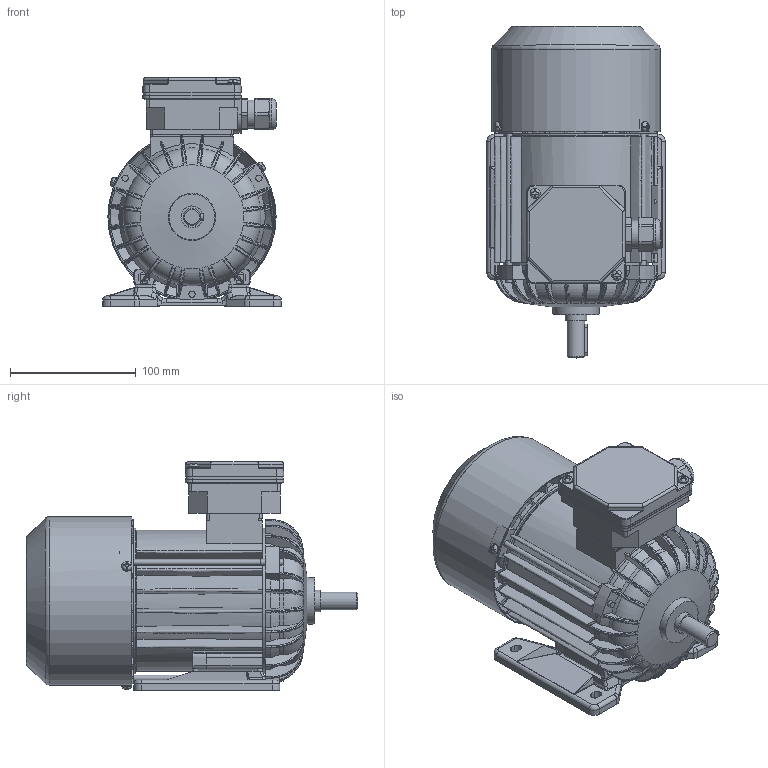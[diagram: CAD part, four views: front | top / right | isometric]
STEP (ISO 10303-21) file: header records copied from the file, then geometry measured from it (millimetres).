
FILE_DESCRIPTION(/* description */ ('Unknown'),/* implementation_level */ '2;1');
FILE_NAME(/* name */ '2SIE71-4B',/* time_stamp */ '2021-04-13T15:18:24+02:00',/* author */ ('Unknown'),/* organization */ ('Unknown'),/* preprocessor_version */ 'ST-DEVELOPER v16.7',/* originating_system */ 'Solid Edge',/* authorisation */ 'Unknown');
FILE_SCHEMA (('AUTOMOTIVE_DESIGN {1 0 10303 214 3 1 1}'));
Products named in the file (1): 2SIE71-4B
Bounding box: 141.93 x 263.49 x 181.5 mm (x, y, z)
Volume: 682237.6 mm3; surface area: 421284.5 mm2
Topology: 2 solids, 2 shells, 2968 faces, 8176 edges, 5161 vertices
Faces by surface type: plane 1101, cylinder 776, bspline 609, torus 274, cone 176, sphere 32
Full cylindrical faces by diameter (mm): 3.7 x4, 3.8 x4, 4 x2, 4.6 x3, 4.8 x2, 5 x8, 5.5 x3, 5.8 x4, 7 x1, 8 x9, 13.999 x1, 15.898 x1, 16.098 x1, 16.498 x1, 16.998 x2, 17.4 x2, 21.998 x2, 22.3 x1, 22.498 x1, 23.098 x1, 23.998 x1, 24.496 x4, 25 x1, 28 x2, 30 x1, 32.502 x4, 36 x2, 40 x3, 73.993 x1, 105 x2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
Entity records: 128825 total; most frequent: CARTESIAN_POINT 38815, ORIENTED_EDGE 15638, DIRECTION 12881, EDGE_CURVE 7819, VERTEX_POINT 5042, AXIS2_PLACEMENT_3D 4903, FACE_BOUND 3343, EDGE_LOOP 3339
